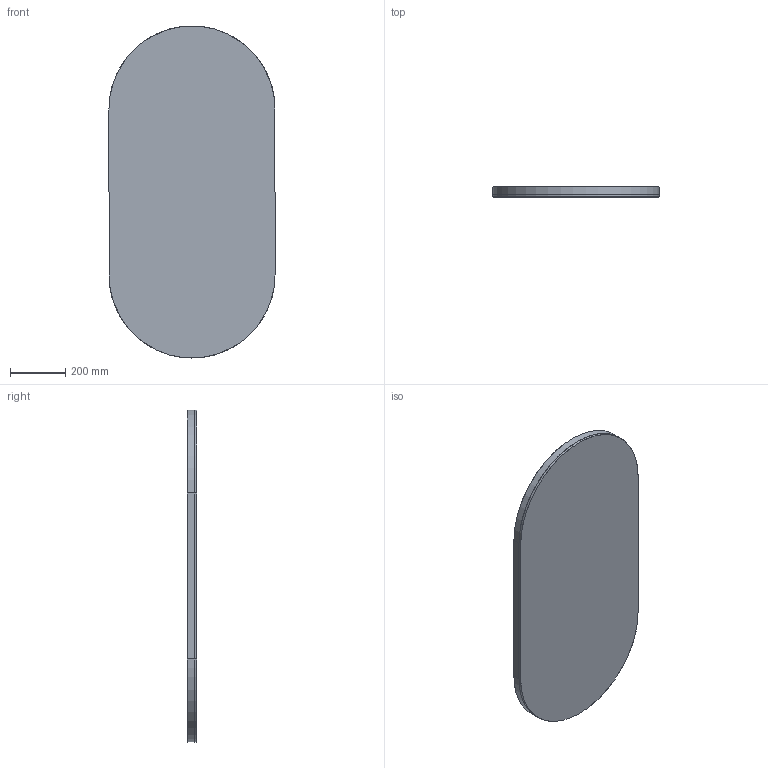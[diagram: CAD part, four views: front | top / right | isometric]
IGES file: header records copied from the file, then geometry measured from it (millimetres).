
Global section: file name: \\Archi-NAS\Comune\X GIOVANNI\SCHEDE PRODOTTO\SPECCHI\MIRR FORUM\MOMA DESIGN_SPECCHI_MIRR FORUM SIMPLE.igs; native system: Rhinoceros ( Jan 17 2018 ); preprocessor: Trout Lake IGES 012 Jan 17 2018; date: 230619.150452; units: millimetre
Bounding box: 600 x 35 x 1200 mm (x, y, z)
Surface area: 2678979.1 mm2 (no closed solid volume)
Topology: 0 solids, 0 shells, 12 faces, 72 edges, 72 vertices
Faces by surface type: bspline 12
